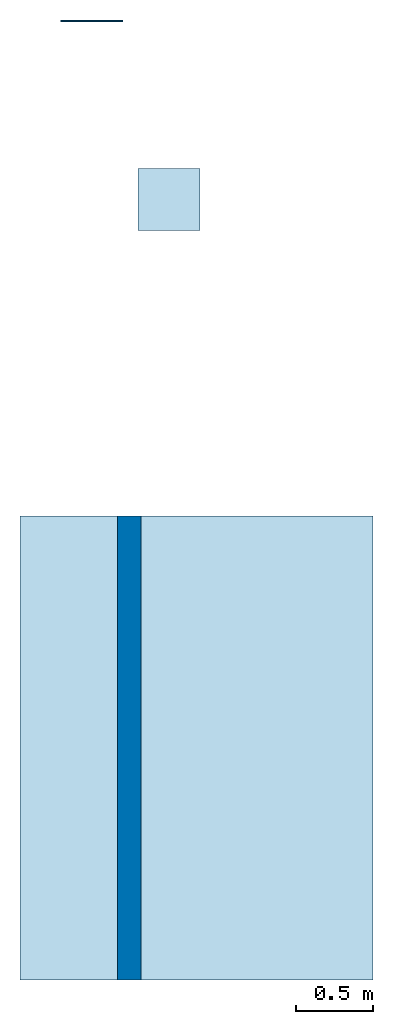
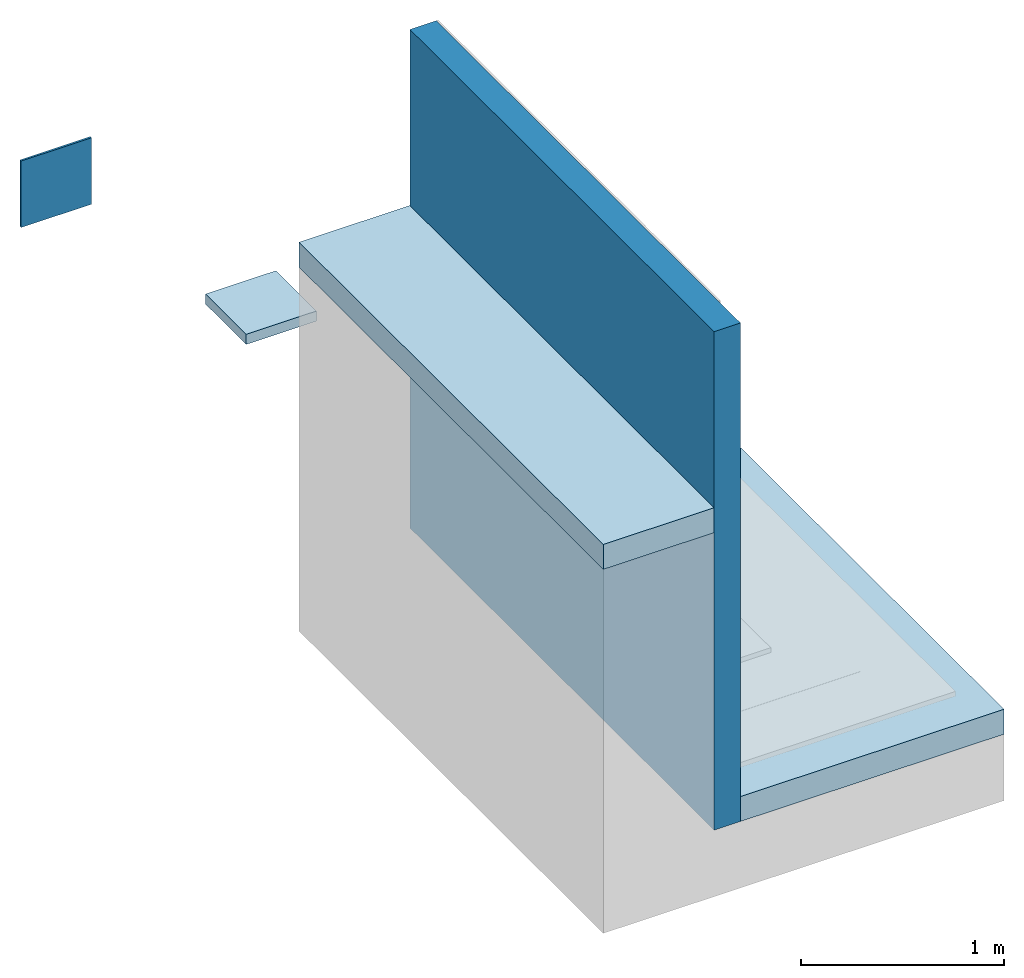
# One storey, part 1 of 2: 3 slabs, 2 walls.
"""IFC2X3 building model written with IfcOpenShell, lengths in metres."""

import ifcopenshell
import ifcopenshell.guid

model = None  # the IFC model being written
_history = None  # IfcOwnerHistory: only IFC2X3 demands one
_inside = {}  # id of a spatial element -> (the spatial element, [elements in it])
_under = {}  # id of a project, library or spatial element -> (it, [spatial elements below it])
_declared = {}  # id of a project -> (the project, [libraries it declares])
_typed = {}  # id of a type object -> (the type object, [elements of that type])
_made_of = {}  # id of a material, layer set ... -> (it, [elements and type objects made of it])


def new_model(schema):
    """Start an empty IFC model of exactly this schema.

    Asked for "IFC4X3", IfcOpenShell would pick the latest addendum, in which some entities
    have other attributes; the version numbers below select the first issue.
    IFC2X3 requires an IfcOwnerHistory on every rooted entity: one is made here for all.
    """
    global model, _history
    if schema == "IFC4X3":
        model = ifcopenshell.file(schema_version=(4, 3, 0, 0))
    else:
        model = ifcopenshell.file(schema=schema)
    _inside.clear()
    _under.clear()
    _declared.clear()
    _typed.clear()
    _made_of.clear()
    _history = None
    if model.schema == "IFC2X3":
        org = make("IfcOrganization", Name="unknown")
        user = make(
            "IfcPersonAndOrganization",
            ThePerson=make("IfcPerson", FamilyName="unknown"),
            TheOrganization=org,
        )
        app = make(
            "IfcApplication",
            ApplicationDeveloper=org,
            Version="unknown",
            ApplicationFullName="unknown",
            ApplicationIdentifier="unknown",
        )
        _history = make(
            "IfcOwnerHistory",
            OwningUser=user,
            OwningApplication=app,
            ChangeAction="ADDED",
            CreationDate=0,
        )
    return model


def make(cls, **values):
    """One entity of the class cls with the attributes given. An attribute that is None is left unset."""
    return model.create_entity(
        cls, **{name: value for name, value in values.items() if value is not None}
    )


def entity(cls, *values):
    """Any entity or typed value of the class cls, its attributes in the order of the schema. None: left unset."""
    e = model.create_entity(cls)
    for i, value in enumerate(values):
        if value is not None:
            e[i] = value
    return e


def rooted(cls, **values):
    """An entity with a GlobalId (a new one), such as an element, a storey or a relation."""
    return make(cls, GlobalId=ifcopenshell.guid.new(), OwnerHistory=_history, **values)


def si_unit(unit_type, name, prefix=None):
    """IfcSIUnit, for example si_unit("LENGTHUNIT", "METRE", prefix="MILLI")."""
    return make("IfcSIUnit", UnitType=unit_type, Prefix=prefix, Name=name)


def converted_unit(unit_type, name, factor, base, dimensions=None, offset=None):
    """IfcConversionBasedUnit, such as the inch: factor (a typed value) times the base unit."""
    return make(
        "IfcConversionBasedUnit"
        if offset is None
        else "IfcConversionBasedUnitWithOffset",
        ConversionOffset=offset,
        Dimensions=None
        if dimensions is None
        else entity("IfcDimensionalExponents", *dimensions),
        UnitType=unit_type,
        Name=name,
        ConversionFactor=make(
            "IfcMeasureWithUnit", ValueComponent=factor, UnitComponent=base
        ),
    )


def derived_unit(unit_type, elements):
    """IfcDerivedUnit: a product of units, each with its exponent."""
    return make(
        "IfcDerivedUnit",
        Elements=[
            make("IfcDerivedUnitElement", Unit=unit, Exponent=power)
            for unit, power in elements
        ],
        UnitType=unit_type,
    )


def assignment(units):
    """IfcUnitAssignment: the units of a project."""
    return None if units is None else make("IfcUnitAssignment", Units=units)


def point(xyz):
    """IfcCartesianPoint."""
    return None if xyz is None else make("IfcCartesianPoint", Coordinates=xyz)


def direction(xyz):
    """IfcDirection."""
    return None if xyz is None else make("IfcDirection", DirectionRatios=xyz)


def frame(location, z_axis=None, x_axis=None):
    """IfcAxis2Placement3D, a coordinate frame: its origin and axes. An axis left out is left unset."""
    return make(
        "IfcAxis2Placement3D",
        Location=point(location),
        Axis=direction(z_axis),
        RefDirection=direction(x_axis),
    )


def frame_2d(location, x_axis=None):
    """IfcAxis2Placement2D, a coordinate frame in the plane: its origin and x axis."""
    return make(
        "IfcAxis2Placement2D", Location=point(location), RefDirection=direction(x_axis)
    )


def origin():
    """The frame at (0, 0, 0) with its axes left unset."""
    return frame((0.0, 0.0, 0.0))


def origin_2d_with_axis():
    """The frame at (0, 0) in the plane with the x axis (1, 0) written out."""
    return frame_2d((0.0, 0.0), x_axis=(1.0, 0.0))


def place(relative_to, where):
    """IfcLocalPlacement: puts the frame where relative to a parent placement (None: the world)."""
    return make(
        "IfcLocalPlacement", PlacementRelTo=relative_to, RelativePlacement=where
    )


def context(
    kind, dimensions, precision=None, world=None, true_north=None, identifier=None
):
    """IfcGeometricRepresentationContext, for example the 3D "Model" context."""
    return make(
        "IfcGeometricRepresentationContext",
        ContextIdentifier=identifier,
        ContextType=kind,
        CoordinateSpaceDimension=dimensions,
        Precision=precision,
        WorldCoordinateSystem=world,
        TrueNorth=true_north,
    )


def subcontext(parent, identifier, kind, view, scale=None):
    """IfcGeometricRepresentationSubContext, for example "Body" below "Model"."""
    return make(
        "IfcGeometricRepresentationSubContext",
        ContextIdentifier=identifier,
        ContextType=kind,
        ParentContext=parent,
        TargetScale=scale,
        TargetView=view,
    )


def project(units=None, contexts=None):
    """IfcProject with its units and contexts."""
    return rooted(
        "IfcProject",
        Name="project",
        RepresentationContexts=contexts,
        UnitsInContext=assignment(units),
    )


def spatial(cls, under=None, at=None, **own):
    """A site, building, storey or space (cls), placed at a placement, below another one or the project."""
    s = rooted(cls, ObjectPlacement=at, **own)
    if under is not None:
        _under.setdefault(under.id(), (under, []))[1].append(s)
    return s


def profile(cls, at=None, kind="AREA", **sizes):
    """A parametric profile (cls). Its sizes go by their IFC names, for example OverallWidth=200.0."""
    return make(cls, ProfileType=kind, Position=at, **sizes)


def rectangle(**sizes):
    """IfcRectangleProfileDef."""
    return profile("IfcRectangleProfileDef", **sizes)


def extrude(swept, where, along, depth):
    """IfcExtrudedAreaSolid: the profile swept, set in the frame where, extruded along a direction by depth."""
    return make(
        "IfcExtrudedAreaSolid",
        SweptArea=swept,
        Position=where,
        ExtrudedDirection=direction(along),
        Depth=depth,
    )


def shape(context_of_items, identifier, shape_type, items):
    """IfcShapeRepresentation: the items that make up one representation, for example the "Body"."""
    return make(
        "IfcShapeRepresentation",
        ContextOfItems=context_of_items,
        RepresentationIdentifier=identifier,
        RepresentationType=shape_type,
        Items=items,
    )


def material(Name=None, Category=None):
    """IfcMaterial."""
    return make("IfcMaterial", Name=Name, Category=Category)


def layer(
    of_material, thickness, ventilated=None, Name=None, Category=None, Priority=None
):
    """IfcMaterialLayer: one layer of a wall or slab, of a material (None: an air gap)."""
    return make(
        "IfcMaterialLayer",
        Material=of_material,
        LayerThickness=thickness,
        IsVentilated=ventilated,
        Name=Name,
        Category=Category,
        Priority=Priority,
    )


def layer_set(layers, Name=None):
    """IfcMaterialLayerSet."""
    return make("IfcMaterialLayerSet", MaterialLayers=layers, LayerSetName=Name)


def layer_usage(for_layer_set, set_direction, sense, offset, extent=None):
    """IfcMaterialLayerSetUsage: how a layer set lies in its element."""
    return make(
        "IfcMaterialLayerSetUsage",
        ForLayerSet=for_layer_set,
        LayerSetDirection=set_direction,
        DirectionSense=sense,
        OffsetFromReferenceLine=offset,
        ReferenceExtent=extent,
    )


def made_of(thing, what):
    """Note that an element or type object is made of a material, layer set ...; save() writes the relation."""
    if what is not None:
        _made_of.setdefault(what.id(), (what, []))[1].append(thing)
    return thing


def type_object(cls, material=None, **own):
    """A type object (cls), such as IfcWallType, which elements share."""
    return made_of(rooted(cls, **own), material)


def element(
    cls,
    number,
    at=None,
    inside=None,
    cuts=None,
    type_object=None,
    material=None,
    context=None,
    identifier="Body",
    shape_type=None,
    held_by="IfcProductDefinitionShape",
    body=None,
    shapes=None,
    **own,
):
    """One element of the class cls, such as IfcWall. Its Tag is "e" and its number.

    at: its placement. inside: the storey or other place that contains it. cuts: it is an
    opening in that element (IfcRelVoidsElement). A single representation is given by context,
    identifier, shape_type and body (its items); several are given by shapes. held_by: the class
    of the entity that holds the representations. save() writes the other relations.
    """
    e = rooted(cls, Tag="e%d" % number, ObjectPlacement=at, **own)
    if body is not None:
        shapes = [shape(context, identifier, shape_type, body)]
    if shapes is not None:
        e.Representation = make(held_by, Representations=shapes)
    if inside is not None:
        _inside.setdefault(inside.id(), (inside, []))[1].append(e)
    if cuts is not None:
        rooted(
            "IfcRelVoidsElement", RelatingBuildingElement=cuts, RelatedOpeningElement=e
        )
    if type_object is not None:
        _typed.setdefault(type_object.id(), (type_object, []))[1].append(e)
    return made_of(e, material)


def aggregate(whole, parts):
    """IfcRelAggregates: a whole, such as a stair, and the parts it consists of."""
    return rooted("IfcRelAggregates", RelatingObject=whole, RelatedObjects=parts)


def save(model, path):
    """Write the relations noted so far, then the file.

    IfcRelAggregates (storeys below a building ...), IfcRelContainedInSpatialStructure (elements
    in a storey), IfcRelDefinesByType, IfcRelAssociatesMaterial and IfcRelDeclares: one each for
    every whole, place, type object, material and project.
    """
    for whole, parts in _under.values():
        aggregate(whole, parts)
    for where, things in _inside.values():
        rooted(
            "IfcRelContainedInSpatialStructure",
            RelatedElements=things,
            RelatingStructure=where,
        )
    for kind, things in _typed.values():
        rooted("IfcRelDefinesByType", RelatedObjects=things, RelatingType=kind)
    for what, things in _made_of.values():
        rooted("IfcRelAssociatesMaterial", RelatedObjects=things, RelatingMaterial=what)
    for by, libraries in _declared.values():
        rooted("IfcRelDeclares", RelatingContext=by, RelatedDefinitions=libraries)
    model.write(path)


model = new_model("IFC2X3")

# Units and contexts
model_context = context("Model", 3, precision=1e-05, world=origin(), true_north=direction((6.123031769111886e-17, 1.0)))
body_context = subcontext(model_context, "Body", "Model", "MODEL_VIEW")
ifc_project = project(units=[si_unit("LENGTHUNIT", "METRE"), si_unit("AREAUNIT", "SQUARE_METRE"), si_unit("VOLUMEUNIT", "CUBIC_METRE"), converted_unit("PLANEANGLEUNIT", "DEGREE", entity("IfcRatioMeasure", 0.017453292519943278), si_unit("PLANEANGLEUNIT", "RADIAN"), dimensions=[0, 0, 0, 0, 0, 0, 0]), si_unit("MASSUNIT", "GRAM", prefix="KILO"), derived_unit("MASSDENSITYUNIT", [(si_unit("MASSUNIT", "GRAM", prefix="KILO"), 1), (si_unit("LENGTHUNIT", "METRE"), -3)]), derived_unit("IONCONCENTRATIONUNIT", [(si_unit("MASSUNIT", "GRAM", prefix="KILO"), 1), (si_unit("LENGTHUNIT", "METRE"), -3)]), derived_unit("MOMENTOFINERTIAUNIT", [(si_unit("LENGTHUNIT", "METRE"), 4)]), si_unit("TIMEUNIT", "SECOND"), si_unit("FREQUENCYUNIT", "HERTZ"), si_unit("THERMODYNAMICTEMPERATUREUNIT", "DEGREE_CELSIUS"), derived_unit("THERMALTRANSMITTANCEUNIT", [(si_unit("MASSUNIT", "GRAM", prefix="KILO"), 1), (si_unit("THERMODYNAMICTEMPERATUREUNIT", "KELVIN"), -1), (si_unit("TIMEUNIT", "SECOND"), -3)]), derived_unit("THERMALCONDUCTANCEUNIT", [(si_unit("MASSUNIT", "GRAM", prefix="KILO"), 1), (si_unit("THERMODYNAMICTEMPERATUREUNIT", "KELVIN"), -1), (si_unit("TIMEUNIT", "SECOND"), -3), (si_unit("LENGTHUNIT", "METRE"), 1)]), derived_unit("VOLUMETRICFLOWRATEUNIT", [(si_unit("LENGTHUNIT", "METRE"), 3), (si_unit("TIMEUNIT", "SECOND"), -1)]), derived_unit("MASSFLOWRATEUNIT", [(si_unit("MASSUNIT", "GRAM", prefix="KILO"), 1), (si_unit("TIMEUNIT", "SECOND"), -1)]), derived_unit("ROTATIONALFREQUENCYUNIT", [(si_unit("TIMEUNIT", "SECOND"), -1)]), si_unit("ELECTRICCURRENTUNIT", "AMPERE"), si_unit("ELECTRICVOLTAGEUNIT", "VOLT"), si_unit("POWERUNIT", "WATT"), si_unit("FORCEUNIT", "NEWTON", prefix="KILO"), si_unit("ILLUMINANCEUNIT", "LUX"), si_unit("LUMINOUSFLUXUNIT", "LUMEN"), si_unit("LUMINOUSINTENSITYUNIT", "CANDELA"), derived_unit("USERDEFINED", [(si_unit("MASSUNIT", "GRAM", prefix="KILO"), -1), (si_unit("LENGTHUNIT", "METRE"), -2), (si_unit("TIMEUNIT", "SECOND"), 3), (si_unit("LUMINOUSFLUXUNIT", "LUMEN"), 1)]), derived_unit("USERDEFINED", [(si_unit("MASSUNIT", "GRAM", prefix="KILO"), 1), (si_unit("TIMEUNIT", "SECOND"), -3), (si_unit("LENGTHUNIT", "METRE"), 3), (si_unit("ELECTRICCURRENTUNIT", "AMPERE"), -2)]), derived_unit("SOUNDPOWERUNIT", [(si_unit("MASSUNIT", "GRAM", prefix="KILO"), 1), (si_unit("TIMEUNIT", "SECOND"), -3), (si_unit("LENGTHUNIT", "METRE"), 2)]), derived_unit("SOUNDPRESSUREUNIT", [(si_unit("MASSUNIT", "GRAM", prefix="KILO"), 1), (si_unit("LENGTHUNIT", "METRE"), -1), (si_unit("TIMEUNIT", "SECOND"), -2)]), derived_unit("LINEARVELOCITYUNIT", [(si_unit("LENGTHUNIT", "METRE"), 1), (si_unit("TIMEUNIT", "SECOND"), -1)]), si_unit("PRESSUREUNIT", "PASCAL"), derived_unit("USERDEFINED", [(si_unit("MASSUNIT", "GRAM", prefix="KILO"), 1), (si_unit("LENGTHUNIT", "METRE"), -2), (si_unit("TIMEUNIT", "SECOND"), -2)]), derived_unit("LINEARFORCEUNIT", [(si_unit("MASSUNIT", "GRAM", prefix="KILO"), 1), (si_unit("TIMEUNIT", "SECOND"), -2)]), derived_unit("PLANARFORCEUNIT", [(si_unit("MASSUNIT", "GRAM", prefix="KILO"), 1), (si_unit("LENGTHUNIT", "METRE"), -1), (si_unit("TIMEUNIT", "SECOND"), -2)]), derived_unit("SPECIFICHEATCAPACITYUNIT", [(si_unit("THERMODYNAMICTEMPERATUREUNIT", "KELVIN"), -1), (si_unit("LENGTHUNIT", "METRE"), 2), (si_unit("TIMEUNIT", "SECOND"), -2)]), derived_unit("HEATINGVALUEUNIT", [(si_unit("LENGTHUNIT", "METRE"), 2), (si_unit("TIMEUNIT", "SECOND"), -2)]), derived_unit("VAPORPERMEABILITYUNIT", [(si_unit("LENGTHUNIT", "METRE"), -1), (si_unit("TIMEUNIT", "SECOND"), 1)]), derived_unit("DYNAMICVISCOSITYUNIT", [(si_unit("MASSUNIT", "GRAM", prefix="KILO"), 1), (si_unit("TIMEUNIT", "SECOND"), -1), (si_unit("LENGTHUNIT", "METRE"), -1)]), derived_unit("THERMALEXPANSIONCOEFFICIENTUNIT", [(si_unit("THERMODYNAMICTEMPERATUREUNIT", "KELVIN"), -1)]), derived_unit("MODULUSOFELASTICITYUNIT", [(si_unit("MASSUNIT", "GRAM", prefix="KILO"), 1), (si_unit("LENGTHUNIT", "METRE"), -1), (si_unit("TIMEUNIT", "SECOND"), -2)]), derived_unit("ISOTHERMALMOISTURECAPACITYUNIT", [(si_unit("LENGTHUNIT", "METRE"), 3), (si_unit("MASSUNIT", "GRAM", prefix="KILO"), -1)]), derived_unit("MOISTUREDIFFUSIVITYUNIT", [(si_unit("TIMEUNIT", "SECOND"), -1), (si_unit("LENGTHUNIT", "METRE"), 2)])], contexts=[model_context])

# Site, building, storey
site_placement = place(None, origin())
site = spatial("IfcSite", under=ifc_project, at=site_placement, Name="Default", CompositionType="ELEMENT")
building_placement = place(site_placement, origin())
building = spatial("IfcBuilding", under=site, at=building_placement, CompositionType="ELEMENT")
storey_placement = place(building_placement, frame((0.0, 0.0, -0.0025237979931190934)))
storey = spatial("IfcBuildingStorey", under=building, at=storey_placement, Name="ARQ Térreo", CompositionType="ELEMENT", Elevation=-0.0025237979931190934)

# Slabs
ifc_material_1 = material(Name="#concreto")
ifc_layer_1 = layer(ifc_material_1, 0.14999999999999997)
ifc_layer_set_1 = layer_set([ifc_layer_1], Name="Piso:Genérico 150 mm")
ifc_layer_usage_1 = layer_usage(ifc_layer_set_1, "AXIS3", "POSITIVE", 0.0)
slab_type_1 = type_object("IfcSlabType", Name="Piso:Genérico 150 mm", PredefinedType="FLOOR", material=ifc_layer_set_1)
slab_1_placement = place(storey_placement, origin())
element("IfcSlab", 1, at=slab_1_placement, inside=storey, type_object=slab_type_1, material=ifc_layer_usage_1, Name="Piso:Genérico 150 mm", ObjectType="Piso:Genérico 150 mm", PredefinedType="FLOOR", context=body_context, shape_type="SweptSolid", body=[
    extrude(rectangle(XDim=3.0000000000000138, YDim=1.5000000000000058, at=frame_2d((2.220446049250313e-16, 1.1102230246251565e-16), x_axis=(1.0, 0.0))), frame((0.3980295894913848, -1.3541299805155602, 0.14999999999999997), z_axis=(0.0, 0.0, -1.0), x_axis=(0.0, 1.0, 0.0)), (0.0, 0.0, 1.0), 0.14999999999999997),
])
slab_2_placement = place(storey_placement, origin())
element("IfcSlab", 2, at=slab_2_placement, inside=storey, type_object=slab_type_1, material=ifc_layer_usage_1, Name="Piso:Genérico 150 mm", ObjectType="Piso:Genérico 150 mm", PredefinedType="FLOOR", context=body_context, shape_type="SweptSolid", body=[
    extrude(rectangle(XDim=3.0000000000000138, YDim=0.6311017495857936, at=frame_2d((2.220446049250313e-16, 8.326672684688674e-17), x_axis=(1.0, 0.0))), frame((-0.817521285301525, -1.3541299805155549, 1.9404691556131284), z_axis=(0.0, 0.0, -1.0), x_axis=(0.0, 1.0, 0.0)), (0.0, 0.0, 1.0), 0.15000000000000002),
])
ifc_material_2 = material(Name="#Proteção Mecânica")
ifc_layer_2 = layer(ifc_material_2, 0.03)
ifc_material_3 = material(Name="#VIAPLUS 1000")
ifc_layer_3 = layer(ifc_material_3, 0.0009999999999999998)
ifc_material_4 = material(Name="#Argamassa")
ifc_layer_4 = layer(ifc_material_4, 0.03)
ifc_layer_set_2 = layer_set([ifc_layer_2, ifc_layer_3, ifc_layer_4], Name="Piso:IMPH_VP1000")
ifc_layer_usage_2 = layer_usage(ifc_layer_set_2, "AXIS3", "POSITIVE", 0.0)
slab_type_2 = type_object("IfcSlabType", Name="Piso:IMPH_VP1000", PredefinedType="FLOOR", material=ifc_layer_set_2)
slab_3_placement = place(storey_placement, origin())
element("IfcSlab", 3, at=slab_3_placement, inside=storey, type_object=slab_type_2, material=ifc_layer_usage_2, Name="Piso:IMPH_VP1000", ObjectType="Piso:IMPH_VP1000", PredefinedType="FLOOR", context=body_context, shape_type="SweptSolid", body=[
    extrude(rectangle(XDim=0.4, YDim=0.4, at=origin_2d_with_axis()), frame((-0.16887219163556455, 2.19049679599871, 0.0), z_axis=(0.0, 0.0, -1.0), x_axis=(0.0, 1.0, 0.0)), (0.0, 0.0, 1.0), 0.061),
])

# Walls
ifc_layer_5 = layer(ifc_material_1, 0.14999999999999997)
ifc_layer_set_3 = layer_set([ifc_layer_5], Name="Parede básica:Parede básica:Parede Concreto")
ifc_layer_usage_3 = layer_usage(ifc_layer_set_3, "AXIS2", "NEGATIVE", 0.07499999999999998)
wall_type_1 = type_object("IfcWallType", Name="Parede básica:Parede básica:Parede Concreto", PredefinedType="STANDARD", material=ifc_layer_set_3)
wall_1_placement = place(storey_placement, frame((-0.4269704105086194, 0.14587001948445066, 0.0), z_axis=(0.0, 0.0, 1.0), x_axis=(0.0, -1.0, 0.0)))
element("IfcWallStandardCase", 4, at=wall_1_placement, inside=storey, type_object=wall_type_1, material=ifc_layer_usage_3, Name="Parede básica:Parede Concreto", ObjectType="Parede básica:Parede Concreto", context=body_context, shape_type="SweptSolid", body=[
    extrude(rectangle(XDim=2.9999999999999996, YDim=0.15000000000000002, at=frame_2d((1.4999999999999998, 0.0), x_axis=(-1.0, 0.0))), origin(), (0.0, 0.0, 1.0), 2.9999999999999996),
])
ifc_material_5 = material(Name="#Chapisco")
ifc_layer_6 = layer(ifc_material_5, 0.0009999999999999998)
ifc_layer_7 = layer(ifc_material_3, 0.0009999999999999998)
ifc_layer_8 = layer(ifc_material_4, 0.01)
ifc_layer_set_4 = layer_set([ifc_layer_6, ifc_layer_7, ifc_layer_8], Name="Parede básica:IMPV_VP1000")
ifc_layer_usage_4 = layer_usage(ifc_layer_set_4, "AXIS2", "NEGATIVE", 0.006000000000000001)
wall_type_2 = type_object("IfcWallType", Name="Parede básica:IMPV_VP1000", PredefinedType="STANDARD", material=ifc_layer_set_4)
wall_2_placement = place(storey_placement, frame((-0.4703325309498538, 3.345870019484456, 0.0), z_axis=(0.0, 0.0, 1.0), x_axis=(-1.0, 0.0, 0.0)))
element("IfcWallStandardCase", 5, at=wall_2_placement, inside=storey, type_object=wall_type_2, material=ifc_layer_usage_4, Name="Parede básica:IMPV_VP7000", ObjectType="Parede básica:IMPV_VP7000", context=body_context, shape_type="SweptSolid", body=[
    extrude(rectangle(XDim=0.4000000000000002, YDim=0.01200000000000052, at=frame_2d((0.2000000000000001, 5.941427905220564e-17), x_axis=(-1.0, 0.0))), origin(), (0.0, 0.0, 1.0), 0.4),
])

save(model, "model.ifc")
